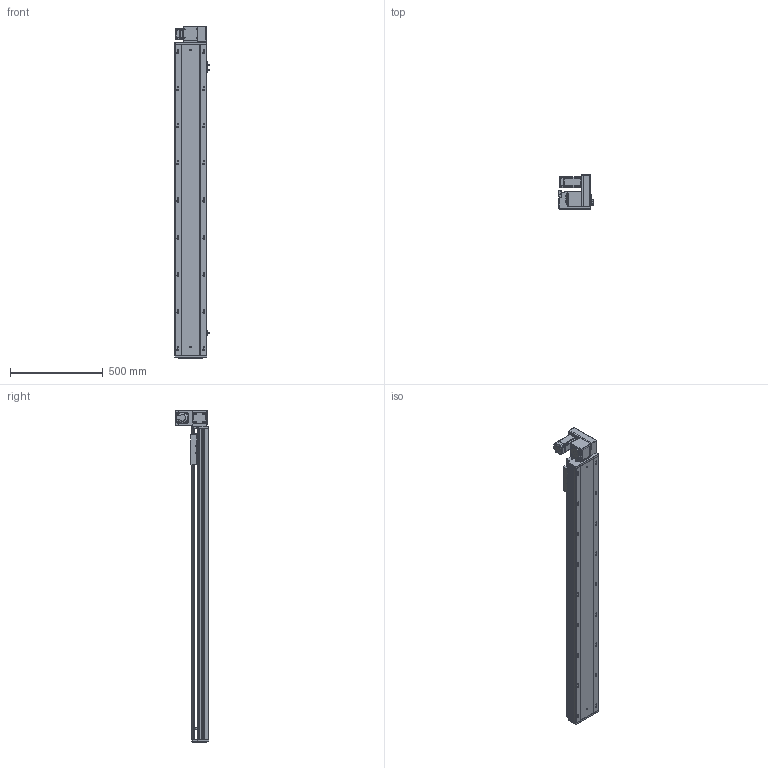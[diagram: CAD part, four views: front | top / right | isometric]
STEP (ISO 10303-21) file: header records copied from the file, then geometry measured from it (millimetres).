
FILE_DESCRIPTION (( 'STEP AP203' ), '1' );
FILE_NAME ('RY170-T-300-UR-P400W.SLDASM_1400.step', '2021-03-01T09:28:12', ( '盈信电脑' ), ( '东莞市道滘镇水果街19号' ), 'SwSTEP 2.0', 'SolidWorks 2012', '' );
FILE_SCHEMA (( 'CONFIG_CONTROL_DESIGN' ));
Length unit declared in the file: millimetre
Products named in the file (18): 滅袉蝶18-10; RY170-T-300-UR-P400W.SLDASM_1400; RY170-T蹟翐M4; 15; RY120-T主同步轮轴承压盖; RY170-T肮祭湍揤踡輸2; RY170-T肮祭謫裔啣; RY170肮祭謫萇儂欶; RY170-T肮祭湍揤踡輸1; RY170翋肮祭謫釱; RY170同步轮电机安装板(400W); RY170綴裔啣; RY170外置感应片(200共用）; 覜茼ん672; RY170肮祭謫ヶ裔啣; RY170肮祭湍臏賑輸; RY170-T-300肮祭謫倰第裔啣-DR_1400; RY170-T-300肮祭謫倰第菁釱-DR_1400
Assembly tree (22 placements, depth 2):
  RY170-T-300-UR-P400W.SLDASM_1400
    RY170-T-300肮祭謫倰第菁釱-DR_1400
    RY170肮祭湍臏賑輸
    RY170-T-300肮祭謫倰第裔啣-DR_1400
    RY170綴裔啣
    覜茼ん672  x3
    RY170外置感应片(200共用）
    RY170肮祭謫ヶ裔啣
    RY170翋肮祭謫釱
    RY170同步轮电机安装板(400W)
    RY170肮祭謫萇儂欶
    RY170-T肮祭湍揤踡輸1  x2
    RY170-T肮祭湍揤踡輸2  x2
    RY120-T主同步轮轴承压盖
    RY170-T肮祭謫裔啣
    RY170-T蹟翐M4
    滅袉蝶18-10  x2
    15
Bounding box: 183.7 x 182 x 1788 mm (x, y, z)
Volume: 8586346 mm3; surface area: 2934639.2 mm2
Topology: 22 solids, 22 shells, 2848 faces, 7930 edges, 5075 vertices
Faces by surface type: cylinder 1290, plane 1264, cone 264, bspline 30
Entity records: 85424 total; most frequent: CARTESIAN_POINT 19268, ORIENTED_EDGE 13512, DIRECTION 13262, EDGE_CURVE 6756, AXIS2_PLACEMENT_3D 4679, VERTEX_POINT 4431, VECTOR 3904, LINE 3904
